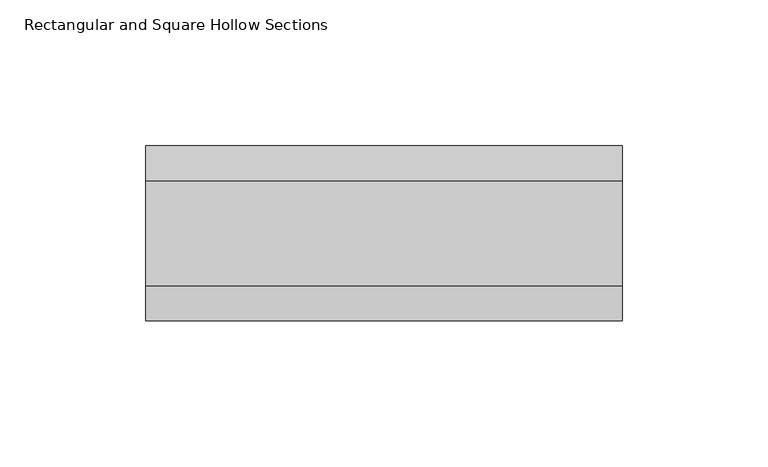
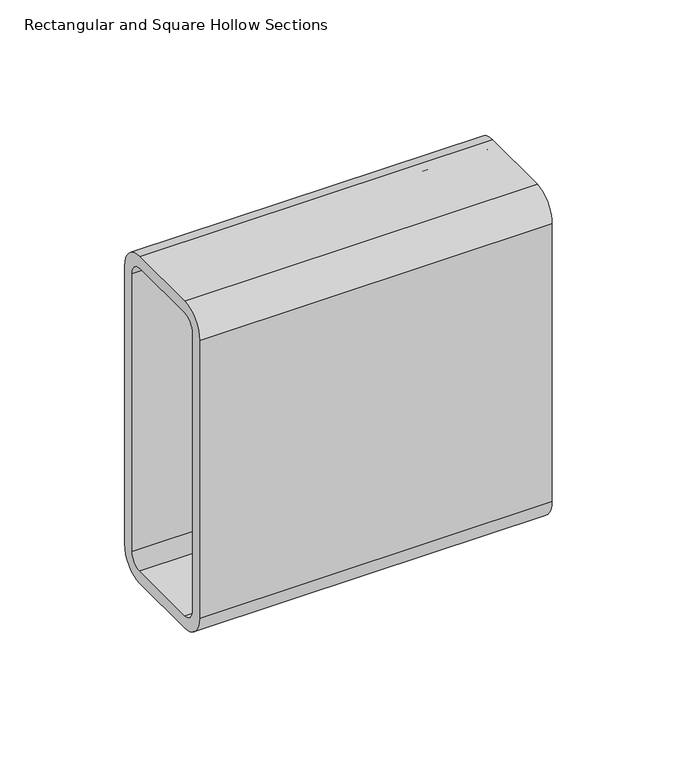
"""IFC4 building model written with IfcOpenShell, lengths in millimetres: beam geometry, Rectangular and Square Hollow Sections : TREC160x60x6."""

from ifc_helpers import new_model, si_unit, point, frame, frame_2d, origin, place, context, project, spatial, polyline, circle_curve, trimmed, segment, composite_curve, outline, extrude, source, transform, mapped, element, save


def rectangular_and_square_hollow_sections_e0d2802d(model_context):
    return source(origin(), model_context, "Body", "SweptSolid", [
        extrude(outline(composite_curve([segment(polyline([(30.0, 68.0), (30.0, -68.0)]), True, "CONTINUOUS"), segment(trimmed(circle_curve(frame_2d((18.0, -68.0)), 12.0), [point((30.0, -68.0))], [point((18.0, -80.0))], False, "CARTESIAN"), True, "CONTINUOUS"), segment(polyline([(18.0, -80.0), (-18.0, -80.0)]), True, "CONTINUOUS"), segment(trimmed(circle_curve(frame_2d((-18.0, -68.0)), 12.0), [point((-18.0, -80.0))], [point((-30.0, -68.0))], False, "CARTESIAN"), True, "CONTINUOUS"), segment(polyline([(-30.0, -68.0), (-30.0, 68.0)]), True, "CONTINUOUS"), segment(trimmed(circle_curve(frame_2d((-18.0, 68.0)), 12.0), [point((-30.0, 68.0))], [point((-18.0, 80.0))], False, "CARTESIAN"), True, "CONTINUOUS"), segment(polyline([(-18.0, 80.0), (18.0, 80.0)]), True, "CONTINUOUS"), segment(trimmed(circle_curve(frame_2d((18.0, 68.0)), 12.0), [point((18.0, 80.0))], [point((30.0, 68.0))], False, "CARTESIAN"), True, "CONTINUOUS")], self_intersect=False), holes=[composite_curve([segment(trimmed(circle_curve(frame_2d((-18.0, 68.0)), 6.0), [point((-18.0, 74.0))], [point((-24.0, 68.0))], True, "CARTESIAN"), True, "CONTINUOUS"), segment(polyline([(-24.0, 68.0), (-24.0, -68.0)]), True, "CONTINUOUS"), segment(trimmed(circle_curve(frame_2d((-18.0, -68.0)), 6.0), [point((-24.0, -68.0))], [point((-18.0, -74.0))], True, "CARTESIAN"), True, "CONTINUOUS"), segment(polyline([(-18.0, -74.0), (18.0, -74.0)]), True, "CONTINUOUS"), segment(trimmed(circle_curve(frame_2d((18.0, -68.0)), 6.0), [point((18.0, -74.0))], [point((24.0, -68.0))], True, "CARTESIAN"), True, "CONTINUOUS"), segment(polyline([(24.0, -68.0), (24.0, 68.0)]), True, "CONTINUOUS"), segment(trimmed(circle_curve(frame_2d((18.0, 68.0)), 6.0), [point((24.0, 68.0))], [point((18.0, 74.0))], True, "CARTESIAN"), True, "CONTINUOUS"), segment(polyline([(18.0, 74.0), (-18.0, 74.0)]), True, "CONTINUOUS")], self_intersect=False)]), frame((-94.7053336, 0.0, 0.0), z_axis=(1.0, 0.0, 0.0), x_axis=(0.0, 1.0, 0.0)), (0.0, 0.0, 1.0), 163.2053336),
    ])


if __name__ == "__main__":
    model = new_model("IFC4")
    model_context = context("Model", 3, world=origin())
    ifc_project = project(units=[si_unit("LENGTHUNIT", "METRE", prefix="MILLI")], contexts=[model_context])
    site = spatial("IfcSite", under=ifc_project)
    building = spatial("IfcBuilding", under=site)
    placement = place(None, origin())
    rectangular_and_square_hollow_sections_shape = rectangular_and_square_hollow_sections_e0d2802d(model_context)
    element("IfcBeam", 1, ObjectType="Rectangular and Square Hollow Sections : TREC160x60x6", at=placement, inside=building, context=model_context, shape_type="MappedRepresentation", body=[
        mapped(rectangular_and_square_hollow_sections_shape, transform((0.0, 0.0, 0.0), x_axis=(1.0, 0.0, 0.0), y_axis=(0.0, 1.0, 0.0), z_axis=(0.0, 0.0, 1.0))),
    ])
    save(model, "model.ifc")
